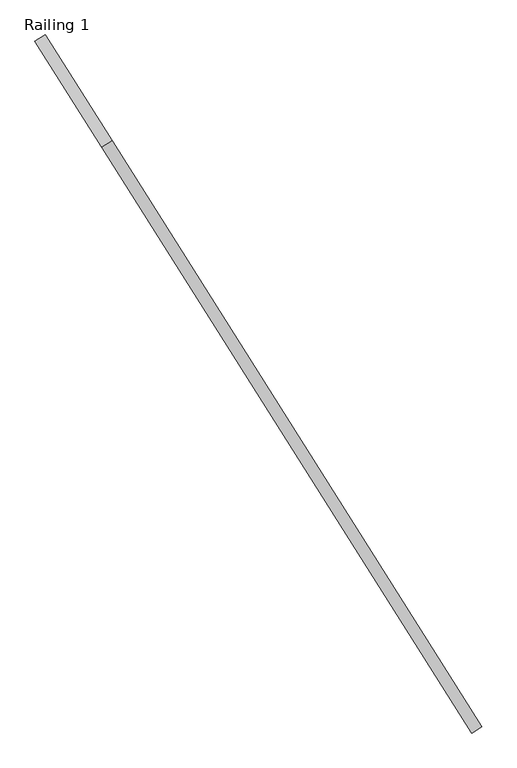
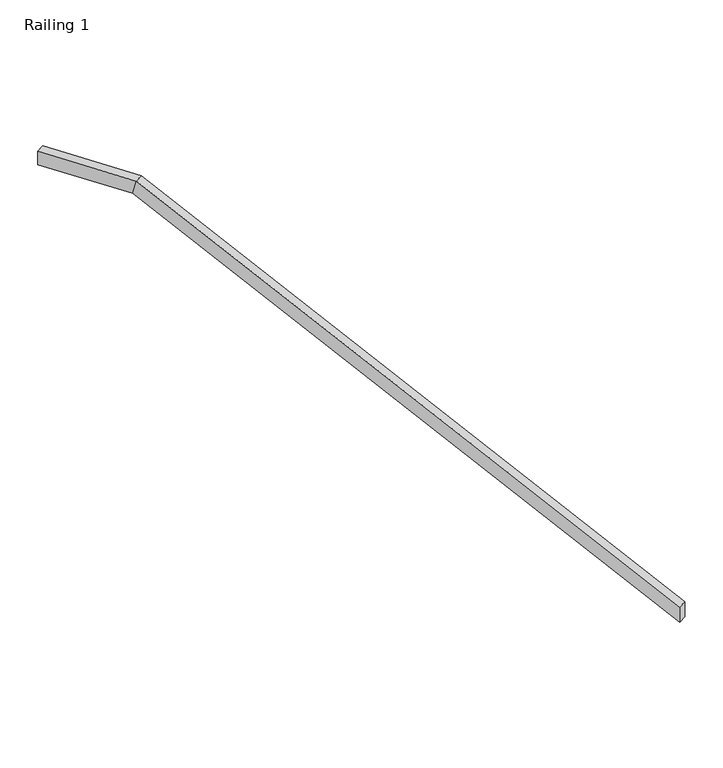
"""IFC4 building model written with IfcOpenShell, lengths in millimetres: railing geometry, Railing 1."""

from ifc_helpers import new_model, si_unit, origin, place, context, project, spatial, faceted_brep, source, transform, mapped, element, save


def railing_1_0b86d958(model_context):
    return source(origin(), model_context, "Body", "Brep", [
        faceted_brep([(42363.9170019, 11810.4740861, 3500.1295478), (42363.9170019, 11810.4740861, 3414.2133595), (42406.8707817, 11837.5962689, 3414.2133595), (42406.8707817, 11837.5962689, 3500.1295478), (40869.3942548, 14272.5193229, 5000.0), (40826.440475, 14245.3971401, 5000.0), (40859.4344537, 14288.2927991, 4923.8), (40816.4806738, 14261.1706163, 4923.8), (40548.6527982, 14685.3333645, 5000.0), (40591.606578, 14712.4555473, 5000.0), (40591.606578, 14712.4555473, 4923.8), (40548.6527982, 14685.3333645, 4923.8)], [[[0, 1, 2, 3]], [[0, 3, 4, 5]], [[3, 2, 6, 4]], [[2, 1, 7, 6]], [[1, 0, 5, 7]], [[8, 9, 10, 11]], [[7, 5, 8, 11]], [[6, 7, 11, 10]], [[4, 6, 10, 9]], [[5, 4, 9, 8]]]),
    ])


if __name__ == "__main__":
    model = new_model("IFC4")
    model_context = context("Model", 3, world=origin())
    ifc_project = project(units=[si_unit("LENGTHUNIT", "METRE", prefix="MILLI")], contexts=[model_context])
    site = spatial("IfcSite", under=ifc_project)
    building = spatial("IfcBuilding", under=site)
    placement = place(None, origin())
    railing_1_shape = railing_1_0b86d958(model_context)
    element("IfcRailing", 1, ObjectType="Railing 1", at=placement, inside=building, context=model_context, shape_type="MappedRepresentation", body=[
        mapped(railing_1_shape, transform((0.0, 0.0, 0.0), x_axis=(1.0, 0.0, 0.0), y_axis=(0.0, 1.0, 0.0), z_axis=(0.0, 0.0, 1.0))),
    ])
    save(model, "model.ifc")
